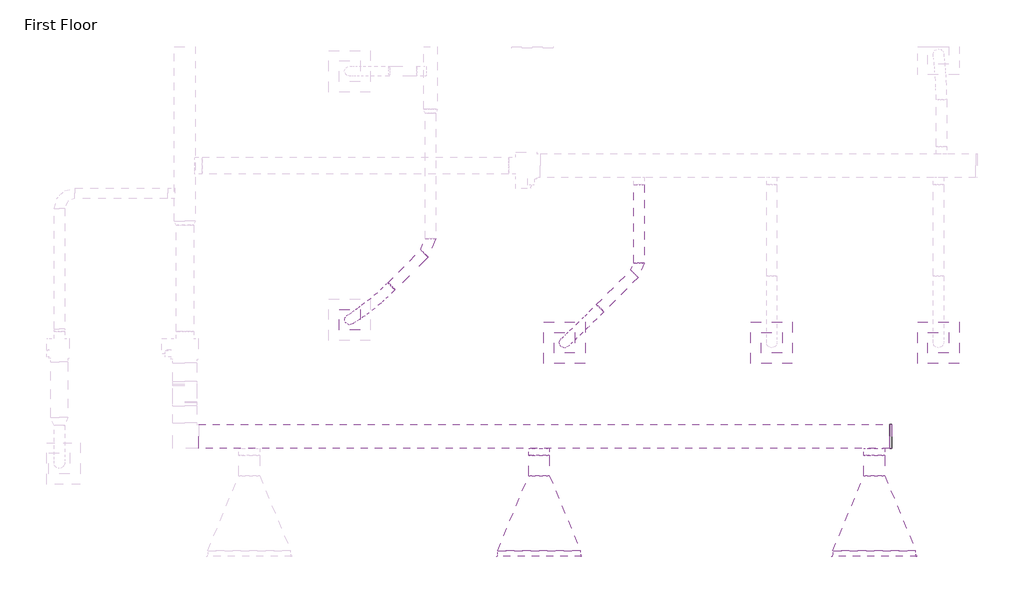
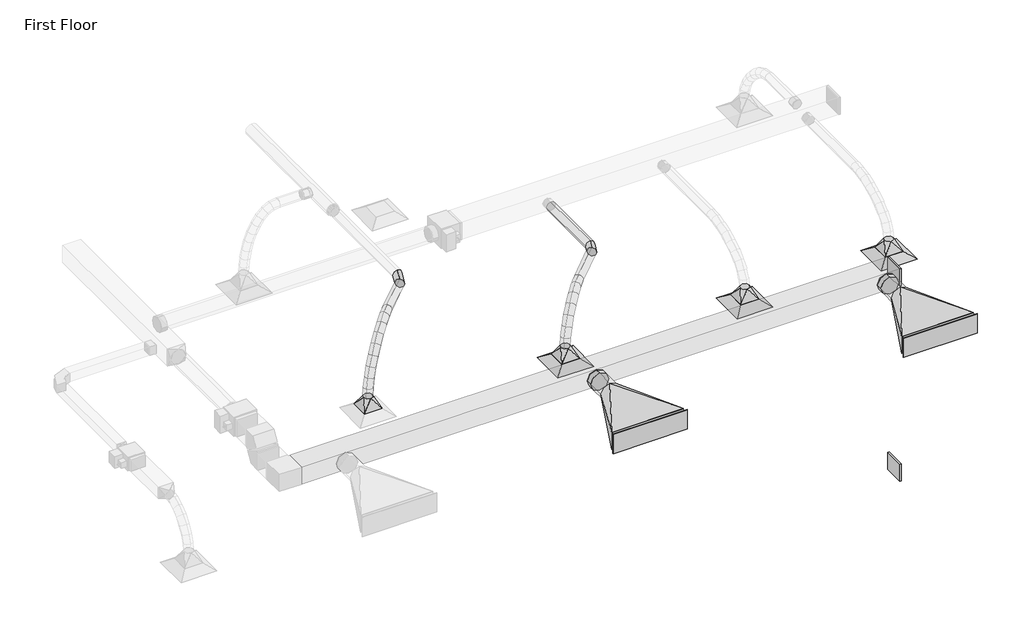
# One storey, part 53 of 61: 12 duct fittings, 8 duct segments, 5 air terminals.
"""IFC4 building model written with IfcOpenShell, lengths in millimetres."""

from ifc_helpers import new_model, si_unit, point, frame, frame_2d, origin, place, context, project, spatial, polyline, circle_curve, ellipse_curve, trimmed, segment, composite_curve, outline, extrude, transform, mapped, element, save
from ifc_brep_helpers import plane_surface, cylinder_surface, advanced_brep
from components import m_supply_diffuser_sidewall_sd_1200mm_69bb5c6f, m_exhaust_grill_er_600_x_600_face_300_x_300_connection_ff221211, m_rectangular_endcap_standard_7e805889, m_rectangular_to_round_transition_angle_45_degree_8f201c83, m_rectangular_to_round_transition_angle_45_degree_f32b718d, m_round_elbow_1_5_d_fa134dda, m_round_elbow_2_d_8afeaf1c, m_round_takeoff_standard_7aadd90a

model = new_model("IFC4")

# Units and contexts
model_context = context("Model", 3, world=origin())
ifc_project = project(units=[si_unit("LENGTHUNIT", "METRE", prefix="MILLI")], contexts=[model_context])

# Site, building, storey
site = spatial("IfcSite", under=ifc_project)
building = spatial("IfcBuilding", under=site)
storey = spatial("IfcBuildingStorey", under=building, Name="First Floor", Elevation=0.0)

# Air terminals
placement = place(None, origin())
m_supply_diffuser_sidewall_sd_1200mm_shape = m_supply_diffuser_sidewall_sd_1200mm_69bb5c6f(model_context)
element("IfcAirTerminal", 1, ObjectType="M_Supply Diffuser - Sidewall : SD-1200mm", at=placement, inside=storey, context=model_context, shape_type="MappedRepresentation", body=[
    mapped(m_supply_diffuser_sidewall_sd_1200mm_shape, transform((-6704.8515452, 34780.0, 3450.0), x_axis=(1.0, 0.0, 0.0), y_axis=(0.0, 1.0, 0.0), z_axis=(0.0, 0.0, 1.0))),
])
element("IfcAirTerminal", 2, ObjectType="M_Supply Diffuser - Sidewall : SD-1200mm", at=placement, inside=storey, context=model_context, shape_type="MappedRepresentation", body=[
    mapped(m_supply_diffuser_sidewall_sd_1200mm_shape, transform((-1854.6899334, 34780.0, 3450.0), x_axis=(1.0, 0.0, 0.0), y_axis=(0.0, 1.0, 0.0), z_axis=(0.0, 0.0, 1.0))),
])
m_exhaust_grill_er_600_x_600_face_300_x_300_connection_shape = m_exhaust_grill_er_600_x_600_face_300_x_300_connection_ff221211(model_context)
element("IfcAirTerminal", 3, ObjectType="M_Supply Diffuser : SD-600 x 600 Face 300 x 300 Connection", at=placement, inside=storey, context=model_context, shape_type="MappedRepresentation", body=[
    mapped(m_exhaust_grill_er_600_x_600_face_300_x_300_connection_shape, transform((-6336.3372286, 37868.7760483, 2680.0), x_axis=(1.0, 0.0, 0.0), y_axis=(0.0, 1.0, 0.0), z_axis=(0.0, 0.0, 1.0))),
])
element("IfcAirTerminal", 4, ObjectType="M_Supply Diffuser : SD-600 x 600 Face 300 x 300 Connection", at=placement, inside=storey, context=model_context, shape_type="MappedRepresentation", body=[
    mapped(m_exhaust_grill_er_600_x_600_face_300_x_300_connection_shape, transform((-3339.4452396, 37868.7760483, 2680.0), x_axis=(1.0, 0.0, 0.0), y_axis=(0.0, 1.0, 0.0), z_axis=(0.0, 0.0, 1.0))),
])
element("IfcAirTerminal", 5, ObjectType="M_Supply Diffuser : SD-600 x 600 Face 300 x 300 Connection", at=placement, inside=storey, context=model_context, shape_type="MappedRepresentation", body=[
    mapped(m_exhaust_grill_er_600_x_600_face_300_x_300_connection_shape, transform((-928.6121284, 37868.7760483, 2680.0), x_axis=(1.0, 0.0, 0.0), y_axis=(0.0, 1.0, 0.0), z_axis=(0.0, 0.0, 1.0))),
])

# Duct fittings
m_rectangular_endcap_standard_shape = m_rectangular_endcap_standard_7e805889(model_context)
element("IfcDuctFitting", 6, ObjectType="M_Rectangular Endcap : Standard", at=placement, inside=storey, context=model_context, shape_type="MappedRepresentation", body=[
    mapped(m_rectangular_endcap_standard_shape, transform((-1628.5962336, 36511.5685433, 3450.0), x_axis=(1.0, 0.0, 0.0), y_axis=(0.0, 1.0, 0.0), z_axis=(0.0, 0.0, 1.0))),
])
element("IfcDuctFitting", 7, ObjectType="M_Rectangular Endcap : Standard", at=placement, inside=storey, context=model_context, shape_type="MappedRepresentation", body=[
    mapped(m_rectangular_endcap_standard_shape, transform((-1628.5962336, 36511.5685433, 0.0), x_axis=(1.0, 0.0, 0.0), y_axis=(0.0, 1.0, 0.0), z_axis=(0.0, 0.0, 1.0))),
])
m_rectangular_to_round_transition_angle_45_degree_shape = m_rectangular_to_round_transition_angle_45_degree_8f201c83(model_context)
element("IfcDuctFitting", 8, ObjectType="M_Rectangular to Round Transition - Angle : 45 Degree", at=placement, inside=storey, context=model_context, shape_type="MappedRepresentation", body=[
    mapped(m_rectangular_to_round_transition_angle_45_degree_shape, transform((-6336.3372286, 37868.7760483, 2781.6), x_axis=(0.0, 0.0, 1.0), y_axis=(1.0, 0.0, 0.0), z_axis=(0.0, 1.0, 0.0))),
])
element("IfcDuctFitting", 9, ObjectType="M_Rectangular to Round Transition - Angle : 45 Degree", at=placement, inside=storey, context=model_context, shape_type="MappedRepresentation", body=[
    mapped(m_rectangular_to_round_transition_angle_45_degree_shape, transform((-3339.4452396, 37868.7760483, 2781.6), x_axis=(0.0, 0.0, 1.0), y_axis=(1.0, 0.0, 0.0), z_axis=(0.0, 1.0, 0.0))),
])
element("IfcDuctFitting", 10, ObjectType="M_Rectangular to Round Transition - Angle : 45 Degree", at=placement, inside=storey, context=model_context, shape_type="MappedRepresentation", body=[
    mapped(m_rectangular_to_round_transition_angle_45_degree_shape, transform((-928.6121284, 37868.7760483, 2781.6), x_axis=(0.0, 0.0, 1.0), y_axis=(1.0, 0.0, 0.0), z_axis=(0.0, 1.0, 0.0))),
])
element("IfcDuctFitting", 11, ObjectType="M_Rectangular to Round Transition - Angle : 45 Degree", at=placement, inside=storey, context=model_context, shape_type="MappedRepresentation", body=[
    mapped(m_rectangular_to_round_transition_angle_45_degree_shape, transform((-9443.8265855, 38203.1138796, 2781.6), x_axis=(0.0, 0.0, 1.0), y_axis=(1.0, 0.0, 0.0), z_axis=(0.0, 1.0, 0.0))),
])
m_rectangular_to_round_transition_angle_45_degree_2_shape = m_rectangular_to_round_transition_angle_45_degree_f32b718d(model_context)
element("IfcDuctFitting", 12, ObjectType="M_Rectangular to Round Transition - Angle : 45 Degree", at=placement, inside=storey, context=model_context, shape_type="MappedRepresentation", body=[
    mapped(m_rectangular_to_round_transition_angle_45_degree_2_shape, transform((-6704.8515452, 34856.2, 3450.0), x_axis=(0.0, 1.0, 0.0), y_axis=(-1.0, 0.0, 0.0), z_axis=(0.0, 0.0, 1.0))),
])
element("IfcDuctFitting", 13, ObjectType="M_Rectangular to Round Transition - Angle : 45 Degree", at=placement, inside=storey, context=model_context, shape_type="MappedRepresentation", body=[
    mapped(m_rectangular_to_round_transition_angle_45_degree_2_shape, transform((-1854.6899334, 34856.2, 3450.0), x_axis=(0.0, 1.0, 0.0), y_axis=(-1.0, 0.0, 0.0), z_axis=(0.0, 0.0, 1.0))),
])
m_round_elbow_1_5_d_shape = m_round_elbow_1_5_d_fa134dda(model_context)
element("IfcDuctFitting", 14, ObjectType="M_Round Elbow : 1.5 D", at=placement, inside=storey, context=model_context, shape_type="MappedRepresentation", body=[
    mapped(m_round_elbow_1_5_d_shape, transform((-5257.1128287, 38932.2504796, 3669.1), x_axis=(0.7071067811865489, 0.7071067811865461, 0.0), y_axis=(-0.7071067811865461, 0.7071067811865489, 0.0), z_axis=(0.0, 0.0, 1.0))),
])
m_round_elbow_2_d_shape = m_round_elbow_2_d_8afeaf1c(model_context)
element("IfcDuctFitting", 15, ObjectType="M_Round Elbow : 2 D", at=placement, inside=storey, context=model_context, shape_type="MappedRepresentation", body=[
    mapped(m_round_elbow_2_d_shape, transform((-8275.4155915, 39249.256062, 4000.0), x_axis=(0.7071067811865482, 0.7071067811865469, 0.0), y_axis=(-0.7071067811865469, 0.7071067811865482, 0.0), z_axis=(0.0, 0.0, 1.0))),
])
m_round_takeoff_standard_shape = m_round_takeoff_standard_7aadd90a(model_context)
element("IfcDuctFitting", 16, ObjectType="M_Round Takeoff : Standard", at=placement, inside=storey, context=model_context, shape_type="MappedRepresentation", body=[
    mapped(m_round_takeoff_standard_shape, transform((-6704.8515452, 36336.5685433, 3450.0), x_axis=(0.0, -1.0, 0.0), y_axis=(-1.0, 0.0, 0.0), z_axis=(0.0, 0.0, -1.0))),
])
element("IfcDuctFitting", 17, ObjectType="M_Round Takeoff : Standard", at=placement, inside=storey, context=model_context, shape_type="MappedRepresentation", body=[
    mapped(m_round_takeoff_standard_shape, transform((-1854.6899334, 36336.5685433, 3450.0), x_axis=(0.0, -1.0, 0.0), y_axis=(-1.0, 0.0, 0.0), z_axis=(0.0, 0.0, -1.0))),
])

# Duct segments
element("IfcDuctSegment", 18, ObjectType="Flex - Round", at=placement, inside=storey, context=model_context, shape_type="AdvancedBrep", body=[
    advanced_brep(
    [(-5769.9911653, 38313.3070843, 3669.1), (-5814.9765805, 38374.3205096, 3594.9132468), (-5875.6053421, 38419.823025, 3669.1), (-5830.6199269, 38358.8095997, 3743.2867532), (-5873.2135336, 38210.9585964, 3647.5175659), (-5911.4444481, 38278.6693389, 3574.7430896), (-5978.4891177, 38317.8102635, 3647.5883612), (-5940.2582032, 38250.099521, 3720.3628374), (-6284.0875192, 37814.9713584, 2962.5136206), (-6389.5123638, 37817.1057067, 2973.9611841), (-6388.5869379, 37922.5807381, 2962.8184137), (-6283.1620933, 37920.4463898, 2951.3708503), (-5975.845747, 38110.5820035, 3587.4800823), (-6002.6360227, 38189.4819457, 3521.3981165), (-6080.6094531, 38217.9342986, 3587.8503144), (-6053.8191773, 38139.0343564, 3653.9322802), (-6072.1471858, 38017.3613745, 3496.2547099), (-6090.2852489, 38104.6367337, 3438.368897), (-6176.6429804, 38124.9730104, 3496.8787319), (-6158.5049173, 38037.6976511, 3554.7645448), (-6156.6258317, 37936.2368253, 3381.0046669), (-6167.7367209, 38030.2603551, 3332.7056802), (-6261.0177307, 38043.9482316, 3381.7704285), (-6249.9068415, 37949.9247018, 3430.0694151), (-6223.775264, 37872.1637118, 3248.8836428), (-6228.8404727, 37971.9559512, 3212.4799391), (-6328.1761371, 37979.8665552, 3249.6317472), (-6323.1109285, 37880.0743158, 3286.0354509), (-6268.0861023, 37830.1009255, 3107.055744), (-6268.2042403, 37934.5892525, 3086.4863749), (-6372.5635929, 37937.7310384, 3107.5586148), (-6372.4454549, 37833.2427115, 3128.1279838)],
    [
        (0, 1, circle_curve(frame((-5822.7982537, 38366.5650546, 3669.1), z_axis=(0.7024063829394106, 0.6964598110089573, 0.1468638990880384), x_axis=(0.7040945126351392, -0.7101062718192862, 0.0)), 75.0)),
        (1, 2, circle_curve(frame((-5822.7982537, 38366.5650546, 3669.1), z_axis=(0.7024063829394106, 0.6964598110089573, 0.1468638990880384), x_axis=(0.7040945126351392, -0.7101062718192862, 0.0)), 75.0)),
        (2, 3, circle_curve(frame((-5822.7982537, 38366.5650546, 3669.1), z_axis=(0.7024063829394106, 0.6964598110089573, 0.1468638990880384), x_axis=(0.7040945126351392, -0.7101062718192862, 0.0)), 75.0)),
        (3, 0, circle_curve(frame((-5822.7982537, 38366.5650546, 3669.1), z_axis=(0.7024063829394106, 0.6964598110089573, 0.1468638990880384), x_axis=(0.7040945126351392, -0.7101062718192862, 0.0)), 75.0)),
        (0, 4),
        (4, 5, ellipse_curve(frame((-5925.8513257, 38264.3844299, 3647.5529635), z_axis=(0.6862880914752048, 0.6759873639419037, 0.26842082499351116), x_axis=(0.17264644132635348, 0.20709706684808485, -0.9629662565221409)), 75.5840762, 75.0)),
        (5, 1),
        (5, 6, ellipse_curve(frame((-5925.8513257, 38264.3844299, 3647.5529635), z_axis=(0.6862880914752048, 0.6759873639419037, 0.26842082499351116), x_axis=(0.17264644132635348, 0.20709706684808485, -0.9629662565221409)), 75.5840762, 75.0)),
        (6, 2),
        (6, 7, ellipse_curve(frame((-5925.8513257, 38264.3844299, 3647.5529635), z_axis=(0.6862880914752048, 0.6759873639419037, 0.26842082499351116), x_axis=(0.17264644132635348, 0.20709706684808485, -0.9629662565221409)), 75.5840762, 75.0)),
        (7, 3),
        (7, 4, ellipse_curve(frame((-5925.8513257, 38264.3844299, 3647.5529635), z_axis=(0.6862880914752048, 0.6759873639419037, 0.26842082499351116), x_axis=(0.17264644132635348, 0.20709706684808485, -0.9629662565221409)), 75.5840762, 75.0)),
        (8, 9, circle_curve(frame((-6336.3372286, 37868.7760483, 2962.6660172), z_axis=(-0.10944130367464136, -0.1034783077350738, -0.9885923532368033), x_axis=(0.6966627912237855, -0.7173958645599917, -0.002031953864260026)), 75.0)),
        (9, 10, circle_curve(frame((-6336.3372286, 37868.7760483, 2962.6660172), z_axis=(-0.10944130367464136, -0.1034783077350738, -0.9885923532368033), x_axis=(0.6966627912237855, -0.7173958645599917, -0.002031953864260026)), 75.0)),
        (10, 11, circle_curve(frame((-6336.3372286, 37868.7760483, 2962.6660172), z_axis=(-0.10944130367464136, -0.1034783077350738, -0.9885923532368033), x_axis=(0.6966627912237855, -0.7173958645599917, -0.002031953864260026)), 75.0)),
        (11, 8, circle_curve(frame((-6336.3372286, 37868.7760483, 2962.6660172), z_axis=(-0.10944130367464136, -0.1034783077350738, -0.9885923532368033), x_axis=(0.6966627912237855, -0.7173958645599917, -0.002031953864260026)), 75.0)),
        (4, 12),
        (12, 13, ellipse_curve(frame((-6028.2276, 38164.2581511, 3587.6651983), z_axis=(0.6299662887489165, 0.6131319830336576, 0.4766672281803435), x_axis=(0.32595528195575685, 0.3483515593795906, -0.8788653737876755)), 75.3824675, 75.0)),
        (13, 5),
        (13, 14, ellipse_curve(frame((-6028.2276, 38164.2581511, 3587.6651983), z_axis=(0.6299662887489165, 0.6131319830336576, 0.4766672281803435), x_axis=(0.32595528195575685, 0.3483515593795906, -0.8788653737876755)), 75.3824675, 75.0)),
        (14, 6),
        (14, 15, ellipse_curve(frame((-6028.2276, 38164.2581511, 3587.6651983), z_axis=(0.6299662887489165, 0.6131319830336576, 0.4766672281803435), x_axis=(0.32595528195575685, 0.3483515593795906, -0.8788653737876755)), 75.3824675, 75.0)),
        (15, 7),
        (15, 12, ellipse_curve(frame((-6028.2276, 38164.2581511, 3587.6651983), z_axis=(0.6299662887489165, 0.6131319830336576, 0.4766672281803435), x_axis=(0.32595528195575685, 0.3483515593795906, -0.8788653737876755)), 75.3824675, 75.0)),
        (12, 16),
        (16, 17, ellipse_curve(frame((-6124.3950831, 38071.1671924, 3496.5667209), z_axis=(0.5562921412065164, 0.5365051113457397, 0.6345875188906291), x_axis=(0.44487294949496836, 0.45272827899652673, -0.7727387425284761)), 75.3039431, 75.0)),
        (17, 13),
        (17, 18, ellipse_curve(frame((-6124.3950831, 38071.1671924, 3496.5667209), z_axis=(0.5562921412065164, 0.5365051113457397, 0.6345875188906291), x_axis=(0.44487294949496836, 0.45272827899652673, -0.7727387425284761)), 75.3039431, 75.0)),
        (18, 14),
        (18, 19, ellipse_curve(frame((-6124.3950831, 38071.1671924, 3496.5667209), z_axis=(0.5562921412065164, 0.5365051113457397, 0.6345875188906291), x_axis=(0.44487294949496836, 0.45272827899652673, -0.7727387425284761)), 75.3039431, 75.0)),
        (19, 15),
        (19, 16, ellipse_curve(frame((-6124.3950831, 38071.1671924, 3496.5667209), z_axis=(0.5562921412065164, 0.5365051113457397, 0.6345875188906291), x_axis=(0.44487294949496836, 0.45272827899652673, -0.7727387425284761)), 75.3039431, 75.0)),
        (16, 20),
        (20, 21, ellipse_curve(frame((-6208.8217812, 37990.0925284, 3381.3875477), z_axis=(0.4669110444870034, 0.44709740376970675, 0.7629534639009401), x_axis=(0.5432599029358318, 0.5357418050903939, -0.6464127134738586)), 75.3084405, 75.0)),
        (21, 17),
        (21, 22, ellipse_curve(frame((-6208.8217812, 37990.0925284, 3381.3875477), z_axis=(0.4669110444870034, 0.44709740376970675, 0.7629534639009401), x_axis=(0.5432599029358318, 0.5357418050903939, -0.6464127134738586)), 75.3084405, 75.0)),
        (22, 18),
        (22, 23, ellipse_curve(frame((-6208.8217812, 37990.0925284, 3381.3875477), z_axis=(0.4669110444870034, 0.44709740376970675, 0.7629534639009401), x_axis=(0.5432599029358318, 0.5357418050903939, -0.6464127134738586)), 75.3084405, 75.0)),
        (23, 19),
        (23, 20, ellipse_curve(frame((-6208.8217812, 37990.0925284, 3381.3875477), z_axis=(0.4669110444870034, 0.44709740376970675, 0.7629534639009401), x_axis=(0.5432599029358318, 0.5357418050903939, -0.6464127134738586)), 75.3084405, 75.0)),
        (20, 24),
        (24, 25, ellipse_curve(frame((-6275.9757006, 37926.0151335, 3249.257695), z_axis=(0.3532742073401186, 0.3363799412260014, 0.8729523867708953), x_axis=(0.6281260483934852, 0.6062275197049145, -0.48779694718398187)), 75.3982286, 75.0)),
        (25, 21),
        (25, 26, ellipse_curve(frame((-6275.9757006, 37926.0151335, 3249.257695), z_axis=(0.3532742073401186, 0.3363799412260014, 0.8729523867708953), x_axis=(0.6281260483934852, 0.6062275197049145, -0.48779694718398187)), 75.3982286, 75.0)),
        (26, 22),
        (26, 27, ellipse_curve(frame((-6275.9757006, 37926.0151335, 3249.257695), z_axis=(0.3532742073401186, 0.3363799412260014, 0.8729523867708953), x_axis=(0.6281260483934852, 0.6062275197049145, -0.48779694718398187)), 75.3982286, 75.0)),
        (27, 23),
        (27, 24, ellipse_curve(frame((-6275.9757006, 37926.0151335, 3249.257695), z_axis=(0.3532742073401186, 0.3363799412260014, 0.8729523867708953), x_axis=(0.6281260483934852, 0.6062275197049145, -0.48779694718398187)), 75.3982286, 75.0)),
        (24, 28),
        (28, 29, ellipse_curve(frame((-6320.3248476, 37883.915982, 3107.3071794), z_axis=(0.19981775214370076, 0.18947325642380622, 0.9613390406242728), x_axis=(0.6964207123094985, 0.6626999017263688, -0.2753670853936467)), 75.6164928, 75.0)),
        (29, 25),
        (29, 30, ellipse_curve(frame((-6320.3248476, 37883.915982, 3107.3071794), z_axis=(0.19981775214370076, 0.18947325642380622, 0.9613390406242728), x_axis=(0.6964207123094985, 0.6626999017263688, -0.2753670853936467)), 75.6164928, 75.0)),
        (30, 26),
        (30, 31, ellipse_curve(frame((-6320.3248476, 37883.915982, 3107.3071794), z_axis=(0.19981775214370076, 0.18947325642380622, 0.9613390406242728), x_axis=(0.6964207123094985, 0.6626999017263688, -0.2753670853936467)), 75.6164928, 75.0)),
        (31, 27),
        (31, 28, ellipse_curve(frame((-6320.3248476, 37883.915982, 3107.3071794), z_axis=(0.19981775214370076, 0.18947325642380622, 0.9613390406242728), x_axis=(0.6964207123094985, 0.6626999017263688, -0.2753670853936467)), 75.6164928, 75.0)),
        (28, 8),
        (11, 29),
        (10, 30),
        (9, 31),
    ],
    [
        plane_surface(frame((-5822.7982537, 38382.0401343, 3595.7138848), z_axis=(0.7024063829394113, 0.6964598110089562, 0.14686389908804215), x_axis=(0.711776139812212, -0.6872916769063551, -0.14493059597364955))),
        cylinder_surface(frame((-5822.7982537, 38366.5650546, 3669.1), z_axis=(0.7024063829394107, 0.6964598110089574, 0.14686389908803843), x_axis=(0.7040945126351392, -0.7101062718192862, 0.0)), 75.0),
        plane_surface(frame((-6336.3372286, 37943.3685324, 2954.8582448), z_axis=(-0.10944130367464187, -0.1034783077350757, -0.988592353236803), x_axis=(0.99399326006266, -0.011393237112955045, -0.10884664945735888))),
        cylinder_surface(frame((-5925.8513257, 38264.3844299, 3647.5529635), z_axis=(0.6595632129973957, 0.6450675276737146, 0.3858293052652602), x_axis=(0.6997176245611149, -0.7144174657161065, -0.00171188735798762)), 75.0),
        cylinder_surface(frame((-6028.2276, 38164.2581511, 3587.6651983), z_axis=(0.5939768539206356, 0.5749747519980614, 0.5626682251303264), x_axis=(0.6972603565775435, -0.7168090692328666, -0.00357119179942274)), 75.0),
        cylinder_surface(frame((-6124.3950831, 38071.1671924, 3496.5667209), z_axis=(0.5141167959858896, 0.49370456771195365, 0.7013841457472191), x_axis=(0.6961004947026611, -0.7179276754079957, -0.004894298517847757)), 75.0),
        cylinder_surface(frame((-6208.8217812, 37990.0925284, 3381.3875477), z_axis=(0.4158806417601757, 0.39682788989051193, 0.8182731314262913), x_axis=(0.6958210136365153, -0.7181952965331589, -0.005350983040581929)), 75.0),
        cylinder_surface(frame((-6275.9757006, 37926.0151335, 3249.257695), z_axis=(0.2869360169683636, 0.2723786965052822, 0.9184103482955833), x_axis=(0.6961333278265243, -0.7178979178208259, -0.004579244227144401)), 75.0),
        cylinder_surface(frame((-6320.3248476, 37883.915982, 3107.3071794), z_axis=(0.10944130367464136, 0.1034783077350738, 0.9885923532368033), x_axis=(0.6966627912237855, -0.7173958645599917, -0.002031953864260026)), 75.0),
    ],
    [
        (0, [[1, 2, 3, 4]]),
        (1, [[-1, 5, 6, 7]]),
        (1, [[-2, -7, 8, 9]]),
        (1, [[-3, -9, 10, 11]]),
        (1, [[-4, -11, 12, -5]]),
        (2, [[13, 14, 15, 16]]),
        (3, [[-6, 17, 18, 19]]),
        (3, [[-8, -19, 20, 21]]),
        (3, [[-10, -21, 22, 23]]),
        (3, [[-12, -23, 24, -17]]),
        (4, [[-18, 25, 26, 27]]),
        (4, [[-20, -27, 28, 29]]),
        (4, [[-22, -29, 30, 31]]),
        (4, [[-24, -31, 32, -25]]),
        (5, [[-26, 33, 34, 35]]),
        (5, [[-28, -35, 36, 37]]),
        (5, [[-30, -37, 38, 39]]),
        (5, [[-32, -39, 40, -33]]),
        (6, [[-34, 41, 42, 43]]),
        (6, [[-36, -43, 44, 45]]),
        (6, [[-38, -45, 46, 47]]),
        (6, [[-40, -47, 48, -41]]),
        (7, [[-42, 49, 50, 51]]),
        (7, [[-44, -51, 52, 53]]),
        (7, [[-46, -53, 54, 55]]),
        (7, [[-48, -55, 56, -49]]),
        (8, [[-50, 57, -16, 58]]),
        (8, [[-52, -58, -15, 59]]),
        (8, [[-54, -59, -14, 60]]),
        (8, [[-56, -60, -13, -57]]),
    ],
),
])
element("IfcDuctSegment", 19, ObjectType="Flex - Round", at=placement, inside=storey, context=model_context, shape_type="AdvancedBrep", body=[
    advanced_brep(
    [(-8789.2050426, 38629.4244654, 4000.0), (-8832.9085508, 38691.4226415, 3925.86344), (-8892.9969903, 38737.7168087, 4000.0), (-8849.2934821, 38675.7186326, 4074.13656), (-8891.0818804, 38531.7814088, 3978.4004518), (-8926.3349495, 38601.878842, 3906.0555224), (-8992.9127462, 38641.9533356, 3978.816233), (-8957.6596771, 38571.8559023, 4051.1611624), (-9395.7266775, 38145.576884, 2961.7210366), (-9501.1233491, 38155.1134986, 2968.8340239), (-9491.9264935, 38260.6508752, 2963.6109978), (-9386.5298218, 38251.1142605, 2956.4980104), (-8990.6879419, 38443.5950909, 3917.5459268), (-9011.4666637, 38526.5074007, 3854.0441292), (-9089.3366108, 38556.5843785, 3919.9058777), (-9068.557889, 38473.6720687, 3983.4076753), (-9084.3801965, 38366.3400067, 3824.6609834), (-9094.922915, 38457.6925372, 3771.3069893), (-9181.1113034, 38480.9104434, 3828.9219734), (-9170.5685849, 38389.5579129, 3882.2759675), (-9169.9225129, 38300.1968696, 3706.4354858), (-9173.4906511, 38396.9422937, 3662.7208522), (-9265.6726436, 38415.5258179, 3712.0522539), (-9262.1045054, 38318.7803937, 3755.7668875), (-9245.0744771, 38245.3884301, 3569.3816947), (-9243.8256613, 38345.646866, 3534.4516858), (-9340.4607335, 38360.9827524, 3575.6620561), (-9341.7095493, 38260.7243166, 3610.592065), (-9307.544643, 38202.2006847, 3419.9669359), (-9302.8656162, 38304.8305419, 3393.24123), (-9402.9667077, 38317.7702516, 3426.1616521), (-9407.6457346, 38215.1403944, 3452.887358), (-9355.0069629, 38170.9582418, 3264.6825109), (-9347.8422339, 38275.2243319, 3246.0893789), (-9450.7163024, 38286.3387078, 3269.9373382), (-9457.8810314, 38182.0726178, 3288.5304702), (-9385.1331903, 38151.996165, 3110.0834663), (-9376.2678692, 38257.3326433, 3100.2172787), (-9481.2374524, 38267.1280585, 3113.3116657), (-9490.1027734, 38161.7915803, 3123.1778533)],
    [
        (0, 1, circle_curve(frame((-8841.1010165, 38683.570637, 4000.0), z_axis=(0.7136374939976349, 0.6839802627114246, 0.15130276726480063), x_axis=(0.6919463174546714, -0.7219489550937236, 0.0)), 75.0)),
        (1, 2, circle_curve(frame((-8841.1010165, 38683.570637, 4000.0), z_axis=(0.7136374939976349, 0.6839802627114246, 0.15130276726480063), x_axis=(0.6919463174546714, -0.7219489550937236, 0.0)), 75.0)),
        (2, 3, circle_curve(frame((-8841.1010165, 38683.570637, 4000.0), z_axis=(0.7136374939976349, 0.6839802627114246, 0.15130276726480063), x_axis=(0.6919463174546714, -0.7219489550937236, 0.0)), 75.0)),
        (3, 0, circle_curve(frame((-8841.1010165, 38683.570637, 4000.0), z_axis=(0.7136374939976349, 0.6839802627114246, 0.15130276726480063), x_axis=(0.6919463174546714, -0.7219489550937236, 0.0)), 75.0)),
        (0, 4),
        (4, 5, ellipse_curve(frame((-8941.9973133, 38586.8673722, 3978.6083424), z_axis=(0.7041273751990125, 0.6497372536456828, 0.28643697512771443), x_axis=(0.11754184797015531, 0.29117191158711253, -0.9494223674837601)), 75.7393784, 75.0)),
        (5, 1),
        (5, 6, ellipse_curve(frame((-8941.9973133, 38586.8673722, 3978.6083424), z_axis=(0.7041273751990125, 0.6497372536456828, 0.28643697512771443), x_axis=(0.11754184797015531, 0.29117191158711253, -0.9494223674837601)), 75.7393784, 75.0)),
        (6, 2),
        (6, 7, ellipse_curve(frame((-8941.9973133, 38586.8673722, 3978.6083424), z_axis=(0.7041273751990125, 0.6497372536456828, 0.28643697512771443), x_axis=(0.11754184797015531, 0.29117191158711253, -0.9494223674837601)), 75.7393784, 75.0)),
        (7, 3),
        (7, 4, ellipse_curve(frame((-8941.9973133, 38586.8673722, 3978.6083424), z_axis=(0.7041273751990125, 0.6497372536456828, 0.28643697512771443), x_axis=(0.11754184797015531, 0.29117191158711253, -0.9494223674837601)), 75.7393784, 75.0)),
        (8, 9, circle_curve(frame((-9443.8265855, 38203.1138796, 2962.6660172), z_axis=(-0.07115520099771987, -0.04311755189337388, -0.9965328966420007), x_axis=(0.6413321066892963, -0.7671599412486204, -0.012599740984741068)), 75.0)),
        (9, 10, circle_curve(frame((-9443.8265855, 38203.1138796, 2962.6660172), z_axis=(-0.07115520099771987, -0.04311755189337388, -0.9965328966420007), x_axis=(0.6413321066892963, -0.7671599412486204, -0.012599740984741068)), 75.0)),
        (10, 11, circle_curve(frame((-9443.8265855, 38203.1138796, 2962.6660172), z_axis=(-0.07115520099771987, -0.04311755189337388, -0.9965328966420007), x_axis=(0.6413321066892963, -0.7671599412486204, -0.012599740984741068)), 75.0)),
        (11, 8, circle_curve(frame((-9443.8265855, 38203.1138796, 2962.6660172), z_axis=(-0.07115520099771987, -0.04311755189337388, -0.9965328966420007), x_axis=(0.6413321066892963, -0.7671599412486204, -0.012599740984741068)), 75.0)),
        (4, 12),
        (12, 13, ellipse_curve(frame((-9040.0122764, 38500.0897347, 3918.7259023), z_axis=(0.6509962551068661, 0.5576142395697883, 0.5150439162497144), x_axis=(0.30180885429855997, 0.43243574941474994, -0.8496533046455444)), 75.4811495, 75.0)),
        (13, 5),
        (13, 14, ellipse_curve(frame((-9040.0122764, 38500.0897347, 3918.7259023), z_axis=(0.6509962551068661, 0.5576142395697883, 0.5150439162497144), x_axis=(0.30180885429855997, 0.43243574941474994, -0.8496533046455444)), 75.4811495, 75.0)),
        (14, 6),
        (14, 15, ellipse_curve(frame((-9040.0122764, 38500.0897347, 3918.7259023), z_axis=(0.6509962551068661, 0.5576142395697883, 0.5150439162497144), x_axis=(0.30180885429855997, 0.43243574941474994, -0.8496533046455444)), 75.4811495, 75.0)),
        (15, 7),
        (15, 12, ellipse_curve(frame((-9040.0122764, 38500.0897347, 3918.7259023), z_axis=(0.6509962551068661, 0.5576142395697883, 0.5150439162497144), x_axis=(0.30180885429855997, 0.43243574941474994, -0.8496533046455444)), 75.4811495, 75.0)),
        (12, 16),
        (16, 17, ellipse_curve(frame((-9132.74575, 38423.625225, 3826.7914784), z_axis=(0.5756592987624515, 0.46090630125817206, 0.6754122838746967), x_axis=(0.44268990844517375, 0.5188061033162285, -0.7313452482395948)), 75.2996623, 75.0)),
        (17, 13),
        (17, 18, ellipse_curve(frame((-9132.74575, 38423.625225, 3826.7914784), z_axis=(0.5756592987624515, 0.46090630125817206, 0.6754122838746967), x_axis=(0.44268990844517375, 0.5188061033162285, -0.7313452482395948)), 75.2996623, 75.0)),
        (18, 14),
        (18, 19, ellipse_curve(frame((-9132.74575, 38423.625225, 3826.7914784), z_axis=(0.5756592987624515, 0.46090630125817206, 0.6754122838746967), x_axis=(0.44268990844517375, 0.5188061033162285, -0.7313452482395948)), 75.2996623, 75.0)),
        (19, 15),
        (19, 16, ellipse_curve(frame((-9132.74575, 38423.625225, 3826.7914784), z_axis=(0.5756592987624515, 0.46090630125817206, 0.6754122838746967), x_axis=(0.44268990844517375, 0.5188061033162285, -0.7313452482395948)), 75.2996623, 75.0)),
        (16, 20),
        (20, 21, ellipse_curve(frame((-9217.7975782, 38357.8613437, 3709.2438698), z_axis=(0.4951259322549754, 0.37285189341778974, 0.7847494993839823), x_axis=(0.5513067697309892, 0.5632675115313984, -0.6154596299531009)), 75.1991762, 75.0)),
        (21, 17),
        (21, 22, ellipse_curve(frame((-9217.7975782, 38357.8613437, 3709.2438698), z_axis=(0.4951259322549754, 0.37285189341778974, 0.7847494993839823), x_axis=(0.5513067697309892, 0.5632675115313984, -0.6154596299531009)), 75.1991762, 75.0)),
        (22, 18),
        (22, 23, ellipse_curve(frame((-9217.7975782, 38357.8613437, 3709.2438698), z_axis=(0.4951259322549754, 0.37285189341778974, 0.7847494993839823), x_axis=(0.5513067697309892, 0.5632675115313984, -0.6154596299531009)), 75.1991762, 75.0)),
        (23, 19),
        (23, 20, ellipse_curve(frame((-9217.7975782, 38357.8613437, 3709.2438698), z_axis=(0.4951259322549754, 0.37285189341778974, 0.7847494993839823), x_axis=(0.5513067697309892, 0.5632675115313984, -0.6154596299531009)), 75.1991762, 75.0)),
        (20, 24),
        (24, 25, ellipse_curve(frame((-9292.7676053, 38303.1855913, 3572.5218754), z_axis=(0.4140456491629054, 0.29487434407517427, 0.8611709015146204), x_axis=(0.6399407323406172, 0.5785107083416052, -0.5057679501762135)), 75.1506495, 75.0)),
        (25, 21),
        (25, 26, ellipse_curve(frame((-9292.7676053, 38303.1855913, 3572.5218754), z_axis=(0.4140456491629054, 0.29487434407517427, 0.8611709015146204), x_axis=(0.6399407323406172, 0.5785107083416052, -0.5057679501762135)), 75.1506495, 75.0)),
        (26, 22),
        (26, 27, ellipse_curve(frame((-9292.7676053, 38303.1855913, 3572.5218754), z_axis=(0.4140456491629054, 0.29487434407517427, 0.8611709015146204), x_axis=(0.6399407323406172, 0.5785107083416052, -0.5057679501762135)), 75.1506495, 75.0)),
        (27, 23),
        (27, 24, ellipse_curve(frame((-9292.7676053, 38303.1855913, 3572.5218754), z_axis=(0.4140456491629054, 0.29487434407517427, 0.8611709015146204), x_axis=(0.6399407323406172, 0.5785107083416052, -0.5057679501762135)), 75.1506495, 75.0)),
        (24, 28),
        (28, 29, ellipse_curve(frame((-9355.2556754, 38259.9854681, 3423.064294), z_axis=(0.33046766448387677, 0.22370799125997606, 0.9169219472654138), x_axis=(0.715621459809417, 0.5740282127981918, -0.3979667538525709)), 75.1347558, 75.0)),
        (29, 25),
        (29, 30, ellipse_curve(frame((-9355.2556754, 38259.9854681, 3423.064294), z_axis=(0.33046766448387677, 0.22370799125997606, 0.9169219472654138), x_axis=(0.715621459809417, 0.5740282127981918, -0.3979667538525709)), 75.1347558, 75.0)),
        (30, 26),
        (30, 31, ellipse_curve(frame((-9355.2556754, 38259.9854681, 3423.064294), z_axis=(0.33046766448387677, 0.22370799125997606, 0.9169219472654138), x_axis=(0.715621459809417, 0.5740282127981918, -0.3979667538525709)), 75.1347558, 75.0)),
        (31, 27),
        (31, 28, ellipse_curve(frame((-9355.2556754, 38259.9854681, 3423.064294), z_axis=(0.33046766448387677, 0.22370799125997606, 0.9169219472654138), x_axis=(0.715621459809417, 0.5740282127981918, -0.3979667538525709)), 75.1347558, 75.0)),
        (28, 32),
        (32, 33, ellipse_curve(frame((-9402.8616327, 38228.6484748, 3267.3099246), z_axis=(0.2389296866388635, 0.15453397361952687, 0.9586614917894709), x_axis=(0.7800346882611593, 0.557438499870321, -0.2842678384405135)), 75.1458047, 75.0)),
        (33, 29),
        (33, 34, ellipse_curve(frame((-9402.8616327, 38228.6484748, 3267.3099246), z_axis=(0.2389296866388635, 0.15453397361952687, 0.9586614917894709), x_axis=(0.7800346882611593, 0.557438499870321, -0.2842678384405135)), 75.1458047, 75.0)),
        (34, 30),
        (34, 35, ellipse_curve(frame((-9402.8616327, 38228.6484748, 3267.3099246), z_axis=(0.2389296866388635, 0.15453397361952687, 0.9586614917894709), x_axis=(0.7800346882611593, 0.557438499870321, -0.2842678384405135)), 75.1458047, 75.0)),
        (35, 31),
        (35, 32, ellipse_curve(frame((-9402.8616327, 38228.6484748, 3267.3099246), z_axis=(0.2389296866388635, 0.15453397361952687, 0.9586614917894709), x_axis=(0.7800346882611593, 0.557438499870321, -0.2842678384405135)), 75.1458047, 75.0)),
        (32, 36),
        (36, 37, ellipse_curve(frame((-9433.1853213, 38209.5621118, 3111.697566), z_axis=(0.1308610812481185, 0.08153005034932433, 0.9880426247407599), x_axis=(0.8308880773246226, 0.534657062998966, -0.1541649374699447)), 75.1922062, 75.0)),
        (37, 33),
        (37, 38, ellipse_curve(frame((-9433.1853213, 38209.5621118, 3111.697566), z_axis=(0.1308610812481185, 0.08153005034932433, 0.9880426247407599), x_axis=(0.8308880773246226, 0.534657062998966, -0.1541649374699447)), 75.1922062, 75.0)),
        (38, 34),
        (38, 39, ellipse_curve(frame((-9433.1853213, 38209.5621118, 3111.697566), z_axis=(0.1308610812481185, 0.08153005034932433, 0.9880426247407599), x_axis=(0.8308880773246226, 0.534657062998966, -0.1541649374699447)), 75.1922062, 75.0)),
        (39, 35),
        (39, 36, ellipse_curve(frame((-9433.1853213, 38209.5621118, 3111.697566), z_axis=(0.1308610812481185, 0.08153005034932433, 0.9880426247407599), x_axis=(0.8308880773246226, 0.534657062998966, -0.1541649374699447)), 75.1922062, 75.0)),
        (36, 8),
        (11, 37),
        (10, 38),
        (9, 39),
    ],
    [
        plane_surface(frame((-8841.1010165, 38699.7697256, 3926.7702961), z_axis=(0.7136374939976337, 0.6839802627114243, 0.15130276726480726), x_axis=(0.7005151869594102, -0.6967928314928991, -0.1541370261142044))),
        cylinder_surface(frame((-8841.1010165, 38683.570637, 4000.0), z_axis=(0.7136374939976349, 0.6839802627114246, 0.15130276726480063), x_axis=(0.6919463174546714, -0.7219489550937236, 0.0)), 75.0),
        plane_surface(frame((-9443.8265855, 38278.0437749, 2959.4239831), z_axis=(-0.07115520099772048, -0.04311755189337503, -0.9965328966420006), x_axis=(0.9974652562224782, -0.0030758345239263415, -0.07108869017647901))),
        cylinder_surface(frame((-8941.9973133, 38586.8673722, 3978.6083424), z_axis=(0.6808696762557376, 0.6028085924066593, 0.41597870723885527), x_axis=(0.6663988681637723, -0.7455229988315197, -0.010392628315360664)), 75.0),
        cylinder_surface(frame((-9040.0122764, 38500.0897347, 3918.7259023), z_axis=(0.6128233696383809, 0.5053109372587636, 0.6075428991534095), x_axis=(0.6497903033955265, -0.7597491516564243, -0.023532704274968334)), 75.0),
        cylinder_surface(frame((-9132.74575, 38423.625225, 3826.7914784), z_axis=(0.5339134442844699, 0.41283322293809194, 0.7379059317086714), x_axis=(0.6405908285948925, -0.7671147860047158, -0.03432630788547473)), 75.0),
        cylinder_surface(frame((-9217.7975782, 38357.8613437, 3709.2438698), z_axis=(0.4537155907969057, 0.33089545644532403, 0.8274360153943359), x_axis=(0.6364165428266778, -0.7702582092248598, -0.0409423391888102)), 75.0),
        cylinder_surface(frame((-9292.7676053, 38303.1855913, 3572.5218754), z_axis=(0.3727156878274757, 0.25767100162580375, 0.891453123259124), x_axis=(0.6354909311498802, -0.7709174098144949, -0.04286751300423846)), 75.0),
        cylinder_surface(frame((-9355.2556754, 38259.9854681, 3423.064294), z_axis=(0.2870342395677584, 0.1889425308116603, 0.9391017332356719), x_axis=(0.6366524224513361, -0.7701311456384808, -0.03964481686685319)), 75.0),
        cylinder_surface(frame((-9402.8616327, 38228.6484748, 3267.3099246), z_axis=(0.18989794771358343, 0.11952573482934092, 0.9745010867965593), x_axis=(0.638994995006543, -0.7686160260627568, -0.030245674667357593)), 75.0),
        cylinder_surface(frame((-9433.1853213, 38209.5621118, 3111.697566), z_axis=(0.07115520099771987, 0.04311755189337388, 0.9965328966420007), x_axis=(0.6413321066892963, -0.7671599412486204, -0.012599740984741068)), 75.0),
    ],
    [
        (0, [[1, 2, 3, 4]]),
        (1, [[-1, 5, 6, 7]]),
        (1, [[-2, -7, 8, 9]]),
        (1, [[-3, -9, 10, 11]]),
        (1, [[-4, -11, 12, -5]]),
        (2, [[13, 14, 15, 16]]),
        (3, [[-6, 17, 18, 19]]),
        (3, [[-8, -19, 20, 21]]),
        (3, [[-10, -21, 22, 23]]),
        (3, [[-12, -23, 24, -17]]),
        (4, [[-18, 25, 26, 27]]),
        (4, [[-20, -27, 28, 29]]),
        (4, [[-22, -29, 30, 31]]),
        (4, [[-24, -31, 32, -25]]),
        (5, [[-26, 33, 34, 35]]),
        (5, [[-28, -35, 36, 37]]),
        (5, [[-30, -37, 38, 39]]),
        (5, [[-32, -39, 40, -33]]),
        (6, [[-34, 41, 42, 43]]),
        (6, [[-36, -43, 44, 45]]),
        (6, [[-38, -45, 46, 47]]),
        (6, [[-40, -47, 48, -41]]),
        (7, [[-42, 49, 50, 51]]),
        (7, [[-44, -51, 52, 53]]),
        (7, [[-46, -53, 54, 55]]),
        (7, [[-48, -55, 56, -49]]),
        (8, [[-50, 57, 58, 59]]),
        (8, [[-52, -59, 60, 61]]),
        (8, [[-54, -61, 62, 63]]),
        (8, [[-56, -63, 64, -57]]),
        (9, [[-58, 65, 66, 67]]),
        (9, [[-60, -67, 68, 69]]),
        (9, [[-62, -69, 70, 71]]),
        (9, [[-64, -71, 72, -65]]),
        (10, [[-66, 73, -16, 74]]),
        (10, [[-68, -74, -15, 75]]),
        (10, [[-70, -75, -14, 76]]),
        (10, [[-72, -76, -13, -73]]),
    ],
),
])
element("IfcDuctSegment", 20, ObjectType="Mitered Elbows / Taps", at=placement, inside=storey, context=model_context, shape_type="SweptSolid", body=[
    extrude(outline(polyline([(-11628.5962336, 36336.5685433), (-11628.5962336, 36686.5685433), (-1628.5962336, 36686.5685433), (-1628.5962336, 36336.5685433), (-11628.5962336, 36336.5685433)])), frame((0.0, 0.0, 3300.0), z_axis=(0.0, 0.0, 1.0), x_axis=(1.0, 0.0, 0.0)), (0.0, 0.0, 1.0), 300.0),
])
element("IfcDuctSegment", 21, ObjectType="Taps", at=placement, inside=storey, context=model_context, shape_type="SweptSolid", body=[
    extrude(outline(composite_curve([segment(trimmed(circle_curve(frame_2d((3450.0, -6704.8515452)), 150.0), [point((3450.0, -6554.8515452))], [point((3600.0, -6704.8515452))], False, "CARTESIAN"), True, "CONTINUOUS"), segment(trimmed(circle_curve(frame_2d((3450.0, -6704.8515452)), 150.0), [point((3600.0, -6704.8515452))], [point((3450.0, -6854.8515452))], False, "CARTESIAN"), True, "CONTINUOUS"), segment(trimmed(circle_curve(frame_2d((3450.0, -6704.8515452)), 150.0), [point((3450.0, -6854.8515452))], [point((3300.0, -6704.8515452))], False, "CARTESIAN"), True, "CONTINUOUS"), segment(trimmed(circle_curve(frame_2d((3450.0, -6704.8515452)), 150.0), [point((3300.0, -6704.8515452))], [point((3450.0, -6554.8515452))], False, "CARTESIAN"), True, "CONTINUOUS")], self_intersect=False)), frame((0.0, 35942.5961031, 0.0), z_axis=(0.0, 1.0, 0.0), x_axis=(0.0, 0.0, 1.0)), (0.0, 0.0, 1.0), 293.9724402),
])
element("IfcDuctSegment", 22, ObjectType="Taps", at=placement, inside=storey, context=model_context, shape_type="SweptSolid", body=[
    extrude(outline(composite_curve([segment(trimmed(circle_curve(frame_2d((3450.0, -1854.6899334)), 150.0), [point((3450.0, -1704.6899334))], [point((3600.0, -1854.6899334))], False, "CARTESIAN"), True, "CONTINUOUS"), segment(trimmed(circle_curve(frame_2d((3450.0, -1854.6899334)), 150.0), [point((3600.0, -1854.6899334))], [point((3450.0, -2004.6899334))], False, "CARTESIAN"), True, "CONTINUOUS"), segment(trimmed(circle_curve(frame_2d((3450.0, -1854.6899334)), 150.0), [point((3450.0, -2004.6899334))], [point((3300.0, -1854.6899334))], False, "CARTESIAN"), True, "CONTINUOUS"), segment(trimmed(circle_curve(frame_2d((3450.0, -1854.6899334)), 150.0), [point((3300.0, -1854.6899334))], [point((3450.0, -1704.6899334))], False, "CARTESIAN"), True, "CONTINUOUS")], self_intersect=False)), frame((0.0, 35942.5961031, 0.0), z_axis=(0.0, 1.0, 0.0), x_axis=(0.0, 0.0, 1.0)), (0.0, 0.0, 1.0), 293.9724402),
])
element("IfcDuctSegment", 23, ObjectType="Taps", at=placement, inside=storey, context=model_context, shape_type="SweptSolid", body=[
    extrude(outline(composite_curve([segment(trimmed(circle_curve(frame_2d((3669.1, -5257.1128287)), 75.0), [point((3669.1, -5332.1128287))], [point((3594.1, -5257.1128287))], False, "CARTESIAN"), True, "CONTINUOUS"), segment(trimmed(circle_curve(frame_2d((3669.1, -5257.1128287)), 75.0), [point((3594.1, -5257.1128287))], [point((3669.1, -5182.1128287))], False, "CARTESIAN"), True, "CONTINUOUS"), segment(trimmed(circle_curve(frame_2d((3669.1, -5257.1128287)), 75.0), [point((3669.1, -5182.1128287))], [point((3744.1, -5257.1128287))], False, "CARTESIAN"), True, "CONTINUOUS"), segment(trimmed(circle_curve(frame_2d((3669.1, -5257.1128287)), 75.0), [point((3744.1, -5257.1128287))], [point((3669.1, -5332.1128287))], False, "CARTESIAN"), True, "CONTINUOUS")], self_intersect=False)), frame((0.0, 39025.4485311, 0.0), z_axis=(0.0, 1.0, 0.0), x_axis=(0.0, 0.0, 1.0)), (0.0, 0.0, 1.0), 1131.8019485),
])
element("IfcDuctSegment", 24, ObjectType="Taps", at=placement, inside=storey, context=model_context, shape_type="SweptSolid", body=[
    extrude(outline(composite_curve([segment(trimmed(circle_curve(frame_2d((0.0, -75.0)), 75.0), [point((-75.0, -75.0))], [point((0.0, 0.0))], False, "CARTESIAN"), True, "CONTINUOUS"), segment(trimmed(circle_curve(frame_2d((0.0, -75.0)), 75.0), [point((0.0, 0.0))], [point((74.9999999, -75.0))], False, "CARTESIAN"), True, "CONTINUOUS"), segment(trimmed(circle_curve(frame_2d((0.0, -75.0)), 75.0), [point((74.9999999, -75.0))], [point((0.0, -150.0))], False, "CARTESIAN"), True, "CONTINUOUS"), segment(trimmed(circle_curve(frame_2d((0.0, -75.0)), 75.0), [point((0.0, -150.0))], [point((-75.0, -75.0))], False, "CARTESIAN"), True, "CONTINUOUS")], self_intersect=False)), frame((-5822.7982537, 38366.5650546, 3594.1), z_axis=(0.7071067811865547, 0.7071067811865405, 0.0), x_axis=(0.7071067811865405, -0.7071067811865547, 0.0)), (0.0, 0.0, 1.0), 706.8019485),
])
element("IfcDuctSegment", 25, ObjectType="Taps / Short Radius", at=placement, inside=storey, context=model_context, shape_type="SweptSolid", body=[
    extrude(outline(composite_curve([segment(trimmed(circle_curve(frame_2d((0.0, -75.0)), 75.0), [point((-74.9999999, -75.0))], [point((0.0, 0.0))], False, "CARTESIAN"), True, "CONTINUOUS"), segment(trimmed(circle_curve(frame_2d((0.0, -75.0)), 75.0), [point((0.0, 0.0))], [point((75.0, -75.0))], False, "CARTESIAN"), True, "CONTINUOUS"), segment(trimmed(circle_curve(frame_2d((0.0, -75.0)), 75.0), [point((75.0, -75.0))], [point((0.0, -150.0))], False, "CARTESIAN"), True, "CONTINUOUS"), segment(trimmed(circle_curve(frame_2d((0.0, -75.0)), 75.0), [point((0.0, -150.0))], [point((-74.9999999, -75.0))], False, "CARTESIAN"), True, "CONTINUOUS")], self_intersect=False)), frame((-8841.1010165, 38683.570637, 3925.0), z_axis=(0.7071067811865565, 0.7071067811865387, 0.0), x_axis=(0.7071067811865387, -0.7071067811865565, 0.0)), (0.0, 0.0, 1.0), 675.7359313),
])

save(model, "model.ifc")
